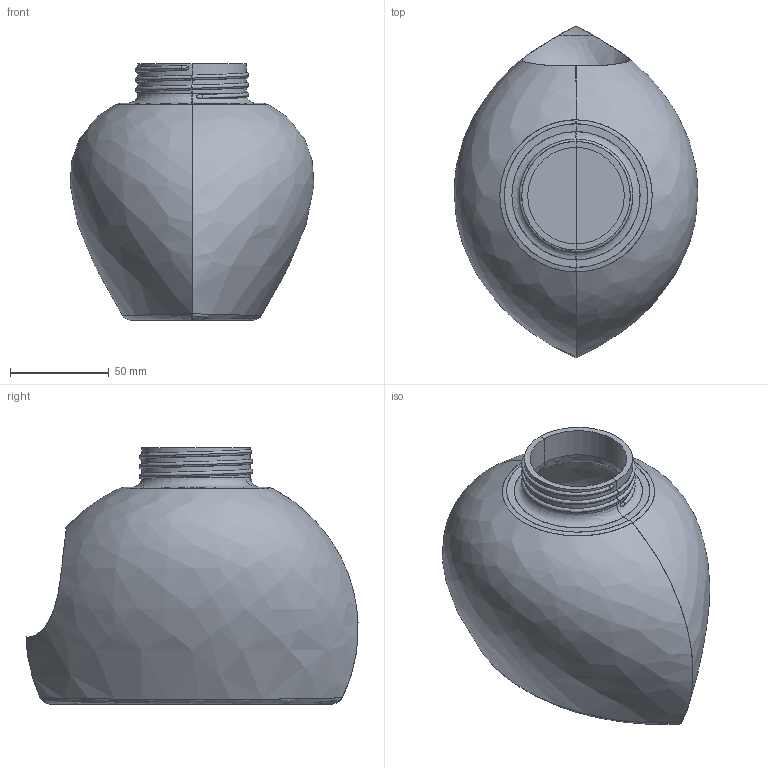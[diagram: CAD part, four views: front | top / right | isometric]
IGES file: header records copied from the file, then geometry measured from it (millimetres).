
Start section: START RECORD GO HERE.
Global section: file name: c1-Garcia-Dorado_Calvo_David-solucion-posible.igs; native system: IBM CATIA IGES - CATIA Version 5 Release 19 ; preprocessor: CATIA Version 5 Release 19 ; author: andres.garcia; organization: IQS; date: 20200131.143922; units: millimetre
Bounding box: 123.57 x 168.36 x 130 mm (x, y, z)
Surface area: 119026.5 mm2 (no closed solid volume)
Topology: 0 solids, 0 shells, 54 faces, 252 edges, 248 vertices
Faces by surface type: bspline 32, revolution 16, plane 6
